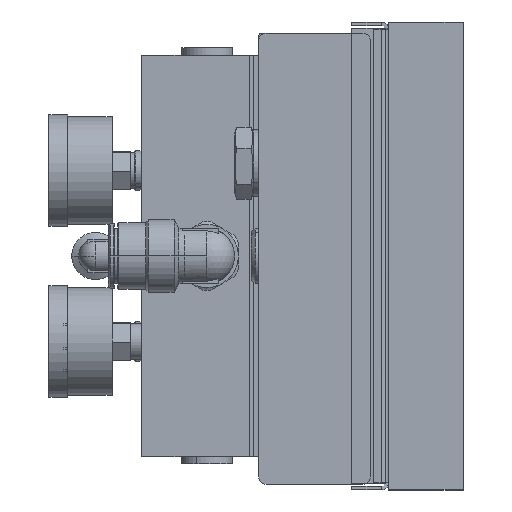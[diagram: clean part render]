
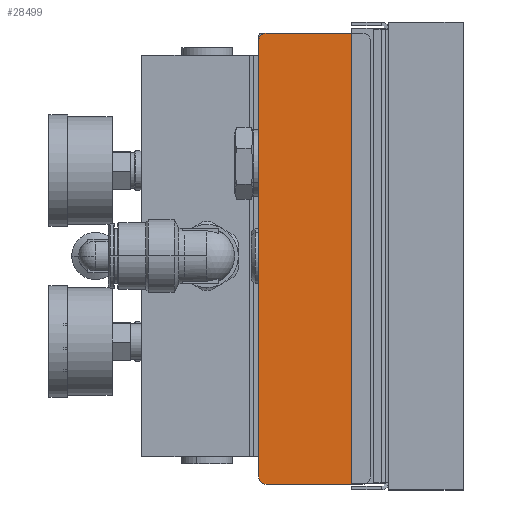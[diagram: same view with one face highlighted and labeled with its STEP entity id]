
A CAD part, left-side view. The second image highlights one B-rep face of the part: STEP entity #28499.
In plain terms, the highlighted planar face has unit normal (-1, 0, 0).
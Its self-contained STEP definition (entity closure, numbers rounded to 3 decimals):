
#6239 = VERTEX_POINT ( 'NONE', #52339 ) ;
#6241 = VERTEX_POINT ( 'NONE', #52346 ) ;
#6252 = VERTEX_POINT ( 'NONE', #52402 ) ;
#6254 = VERTEX_POINT ( 'NONE', #52408 ) ;
#6288 = VERTEX_POINT ( 'NONE', #51814 ) ;
#6321 = VERTEX_POINT ( 'NONE', #51919 ) ;
#6324 = VERTEX_POINT ( 'NONE', #51921 ) ;
#6326 = VERTEX_POINT ( 'NONE', #51927 ) ;
#6716 = CIRCLE ( 'NONE', #26540, 2. ) ;
#6840 = LINE ( 'NONE', #31259, #6845 ) ;
#6845 = VECTOR ( 'NONE', #31274, 1000. ) ;
#6890 = LINE ( 'NONE', #44010, #6893 ) ;
#6893 = VECTOR ( 'NONE', #44012, 1000. ) ;
#6896 = LINE ( 'NONE', #44021, #6899 ) ;
#6899 = VECTOR ( 'NONE', #44020, 1000. ) ;
#7072 = CIRCLE ( 'NONE', #26372, 2. ) ;
#7073 = CIRCLE ( 'NONE', #26269, 2. ) ;
#7074 = CIRCLE ( 'NONE', #26479, 2. ) ;
#7086 = LINE ( 'NONE', #32845, #7089 ) ;
#7089 = VECTOR ( 'NONE', #32844, 1000. ) ;
#15203 = PLANE ( 'NONE',  #54418 ) ;
#15223 = CARTESIAN_POINT ( 'NONE',  ( -452.147, 22.332, 62.377 ) ) ;
#15224 = DIRECTION ( 'NONE',  ( 1., 0., 0. ) ) ;
#15225 = DIRECTION ( 'NONE',  ( 0., 0., 1. ) ) ;
#25749 = FACE_OUTER_BOUND ( 'NONE', #28181, .T. ) ;
#26258 = EDGE_CURVE ( 'NONE', #6241, #6288, #6716, .T. ) ;
#26269 = AXIS2_PLACEMENT_3D ( 'NONE', #32851, #32607, #32610 ) ;
#26342 = EDGE_CURVE ( 'NONE', #6239, #6241, #6840, .T. ) ;
#26372 = AXIS2_PLACEMENT_3D ( 'NONE', #32854, #32609, #32853 ) ;
#26381 = EDGE_CURVE ( 'NONE', #6252, #6324, #6890, .T. ) ;
#26384 = EDGE_CURVE ( 'NONE', #6288, #6326, #6896, .T. ) ;
#26479 = AXIS2_PLACEMENT_3D ( 'NONE', #32592, #32593, #32594 ) ;
#26540 = AXIS2_PLACEMENT_3D ( 'NONE', #31303, #31302, #31300 ) ;
#26697 = EDGE_CURVE ( 'NONE', #6326, #6252, #7072, .T. ) ;
#26709 = EDGE_CURVE ( 'NONE', #6324, #6321, #7073, .T. ) ;
#26715 = EDGE_CURVE ( 'NONE', #6254, #6239, #7074, .T. ) ;
#26827 = EDGE_CURVE ( 'NONE', #6321, #6254, #7086, .T. ) ;
#28181 = EDGE_LOOP ( 'NONE', ( #45906, #45899, #45893, #45892, #45894, #45890, #45889, #45888 ) ) ;
#28499 = ADVANCED_FACE ( 'NONE', ( #25749 ), #15203, .F. ) ;
#31259 = CARTESIAN_POINT ( 'NONE',  ( -452.147, 52.332, -59.123 ) ) ;
#31274 = DIRECTION ( 'NONE',  ( 0., -1., 0. ) ) ;
#31300 = DIRECTION ( 'NONE',  ( 0., 0., 1. ) ) ;
#31302 = DIRECTION ( 'NONE',  ( -1., 0., 0. ) ) ;
#31303 = CARTESIAN_POINT ( 'NONE',  ( -452.147, 24.332, -57.123 ) ) ;
#32592 = CARTESIAN_POINT ( 'NONE',  ( -452.147, 50.332, -57.123 ) ) ;
#32593 = DIRECTION ( 'NONE',  ( -1., 0., 0. ) ) ;
#32594 = DIRECTION ( 'NONE',  ( 0., 0., 1. ) ) ;
#32607 = DIRECTION ( 'NONE',  ( -1., 0., 0. ) ) ;
#32609 = DIRECTION ( 'NONE',  ( -1., 0., 0. ) ) ;
#32610 = DIRECTION ( 'NONE',  ( 0., 0., 1. ) ) ;
#32844 = DIRECTION ( 'NONE',  ( 0., 0., -1. ) ) ;
#32845 = CARTESIAN_POINT ( 'NONE',  ( -452.147, 52.332, 62.377 ) ) ;
#32851 = CARTESIAN_POINT ( 'NONE',  ( -452.147, 50.332, 60.377 ) ) ;
#32853 = DIRECTION ( 'NONE',  ( 0., 0., 1. ) ) ;
#32854 = CARTESIAN_POINT ( 'NONE',  ( -452.147, 24.332, 60.377 ) ) ;
#44010 = CARTESIAN_POINT ( 'NONE',  ( -452.147, 52.332, 62.377 ) ) ;
#44012 = DIRECTION ( 'NONE',  ( 0., 1., 0. ) ) ;
#44020 = DIRECTION ( 'NONE',  ( 0., 0., 1. ) ) ;
#44021 = CARTESIAN_POINT ( 'NONE',  ( -452.147, 22.332, 62.377 ) ) ;
#45888 = ORIENTED_EDGE ( 'NONE', *, *, #26715, .T. ) ;
#45889 = ORIENTED_EDGE ( 'NONE', *, *, #26827, .T. ) ;
#45890 = ORIENTED_EDGE ( 'NONE', *, *, #26709, .T. ) ;
#45892 = ORIENTED_EDGE ( 'NONE', *, *, #26697, .T. ) ;
#45893 = ORIENTED_EDGE ( 'NONE', *, *, #26384, .T. ) ;
#45894 = ORIENTED_EDGE ( 'NONE', *, *, #26381, .T. ) ;
#45899 = ORIENTED_EDGE ( 'NONE', *, *, #26258, .T. ) ;
#45906 = ORIENTED_EDGE ( 'NONE', *, *, #26342, .T. ) ;
#51814 = CARTESIAN_POINT ( 'NONE',  ( -452.147, 22.332, -57.123 ) ) ;
#51919 = CARTESIAN_POINT ( 'NONE',  ( -452.147, 52.332, 60.377 ) ) ;
#51921 = CARTESIAN_POINT ( 'NONE',  ( -452.147, 50.332, 62.377 ) ) ;
#51927 = CARTESIAN_POINT ( 'NONE',  ( -452.147, 22.332, 60.377 ) ) ;
#52339 = CARTESIAN_POINT ( 'NONE',  ( -452.147, 50.332, -59.123 ) ) ;
#52346 = CARTESIAN_POINT ( 'NONE',  ( -452.147, 24.332, -59.123 ) ) ;
#52402 = CARTESIAN_POINT ( 'NONE',  ( -452.147, 24.332, 62.377 ) ) ;
#52408 = CARTESIAN_POINT ( 'NONE',  ( -452.147, 52.332, -57.123 ) ) ;
#54418 = AXIS2_PLACEMENT_3D ( 'NONE', #15223, #15224, #15225 ) ;
